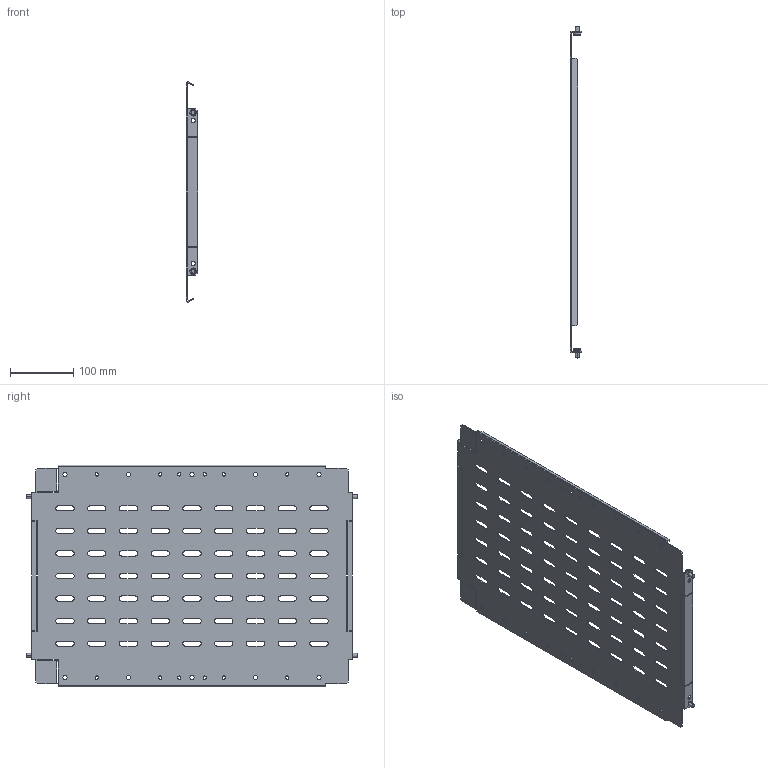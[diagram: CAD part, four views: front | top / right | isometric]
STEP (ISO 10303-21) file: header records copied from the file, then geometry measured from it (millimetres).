
FILE_DESCRIPTION (( 'STEP AP214' ), '1' );
FILE_NAME ('FO-00-SWV-035-060 Ïåðåãîðîäêà ñåêöèîíèðîâàíèÿ âåðòèêàëüíàÿ 350x600 ìì.STEP', '2025-08-11T08:52:03', ( '' ), ( '' ), 'SwSTEP 2.0', 'SolidWorks 2023', '' );
FILE_SCHEMA (( 'AUTOMOTIVE_DESIGN' ));
Length unit declared in the file: millimetre
Products named in the file (1): FO-00-SWV-035-060 Перегородка секционирования вертикальная 350x600 мм
Bounding box: 17.5 x 522.5 x 348.93 mm (x, y, z)
Volume: 266620.1 mm3; surface area: 365735.2 mm2
Topology: 1 solids, 1 shells, 520 faces, 1506 edges, 996 vertices
Faces by surface type: plane 294, cylinder 202, torus 16, cone 8
Entity records: 17597 total; most frequent: CARTESIAN_POINT 3023, ORIENTED_EDGE 3012, DIRECTION 2992, EDGE_CURVE 1506, LINE 1062, VECTOR 1062, VERTEX_POINT 996, AXIS2_PLACEMENT_3D 965
